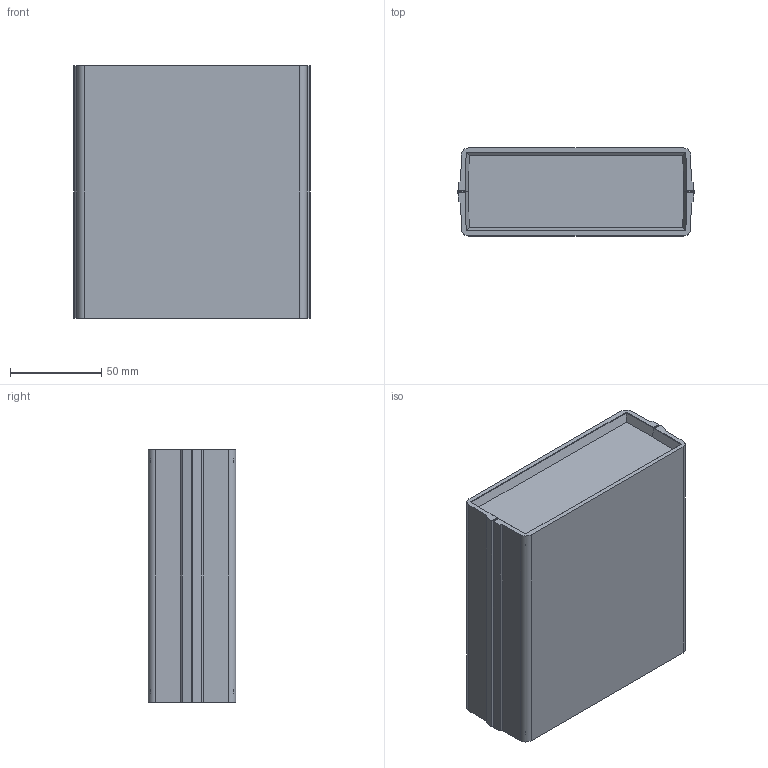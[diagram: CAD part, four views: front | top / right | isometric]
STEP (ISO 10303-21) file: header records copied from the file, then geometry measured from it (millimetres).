
FILE_DESCRIPTION (( 'STEP AP203' ), '1' );
FILE_NAME ('PT0505.STEP', '2020-06-08T05:04:10', ( '' ), ( '' ), 'SwSTEP 2.0', 'SolidWorks 2020', '' );
FILE_SCHEMA (( 'CONFIG_CONTROL_DESIGN' ));
Length unit declared in the file: millimetre
Products named in the file (3): PT0505
Assembly tree (4 placements, depth 2):
  PT0505
    PT0505  x2
    PT0505  x2
Bounding box: 129.18 x 48 x 138 mm (x, y, z)
Volume: 153089.2 mm3; surface area: 128670.9 mm2
Topology: 4 solids, 4 shells, 374 faces, 944 edges, 608 vertices
Faces by surface type: plane 246, cylinder 96, cone 32
Entity records: 5939 total; most frequent: DIRECTION 980, CARTESIAN_POINT 970, ORIENTED_EDGE 944, EDGE_CURVE 472, VECTOR 352, LINE 352, AXIS2_PLACEMENT_3D 314, VERTEX_POINT 304
